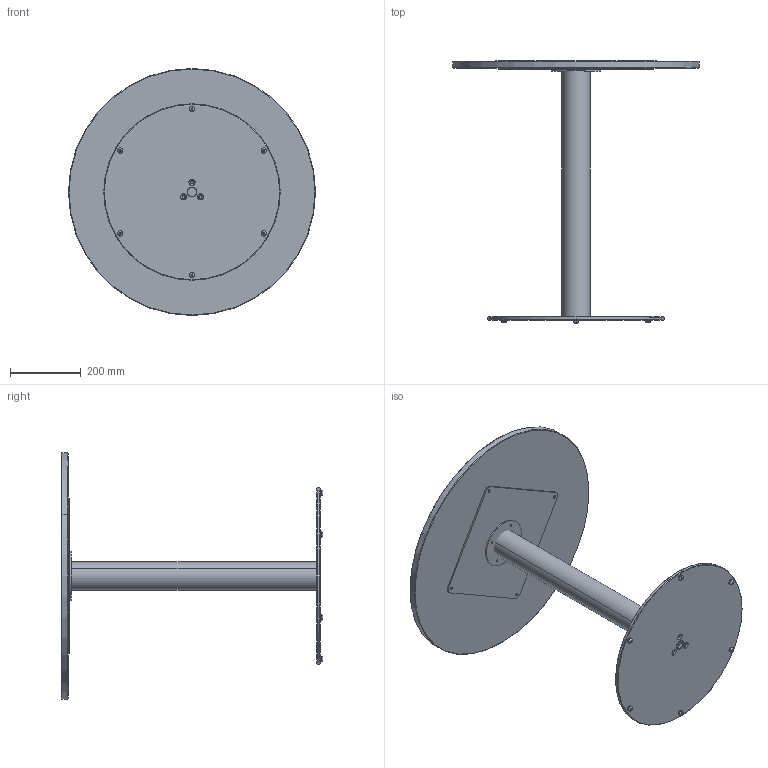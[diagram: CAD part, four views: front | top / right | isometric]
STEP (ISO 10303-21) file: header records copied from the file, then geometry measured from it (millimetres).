
FILE_DESCRIPTION (( 'STEP AP214' ), '1' );
FILE_NAME ('Missing Bistro Table, Ø70 Assembly.STEP', '2025-01-22T14:43:39', ( '' ), ( '' ), 'SwSTEP 2.0', 'SolidWorks 2024', '' );
FILE_SCHEMA (( 'AUTOMOTIVE_DESIGN' ));
Length unit declared in the file: millimetre
Products named in the file (5): Missing Bistro Table, Ø70 Assembly; Missing Bistro Table, Small column Ø80; Missing Bistro Table, Small Base; Missing Bistro Table, Small Support plate; Ø70 Tabletop
Assembly tree (4 placements, depth 2):
  Missing Bistro Table, Ø70 Assembly
    Missing Bistro Table, Small Base
    Missing Bistro Table, Small column Ø80
    Missing Bistro Table, Small Support plate
    Ø70 Tabletop
Bounding box: 700 x 742 x 700 mm (x, y, z)
Volume: 10637371.9 mm3; surface area: 1809732 mm2
Topology: 12 solids, 12 shells, 150 faces, 328 edges, 206 vertices
Faces by surface type: cylinder 80, plane 32, cone 26, torus 12
Entity records: 4496 total; most frequent: DIRECTION 852, CARTESIAN_POINT 691, ORIENTED_EDGE 656, AXIS2_PLACEMENT_3D 367, EDGE_CURVE 328, CIRCLE 210, VERTEX_POINT 206, EDGE_LOOP 200
